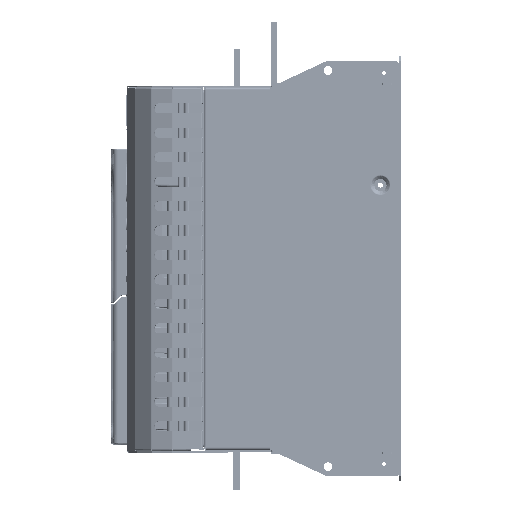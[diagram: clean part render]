
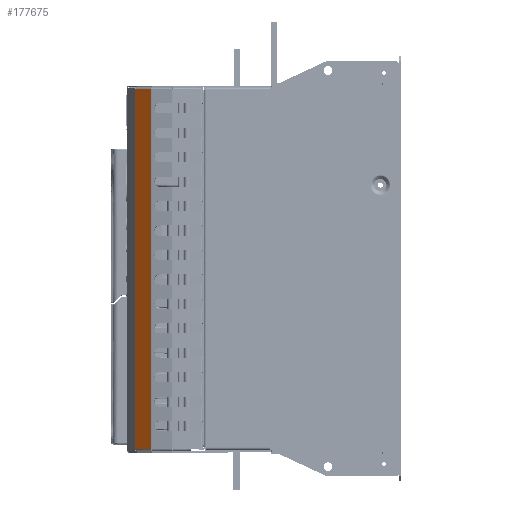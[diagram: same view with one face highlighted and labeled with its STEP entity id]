
A CAD part, left-side view. The second image highlights one B-rep face of the part: STEP entity #177675.
In plain terms, the highlighted planar face has unit normal (-0.744, 0.668, 0).
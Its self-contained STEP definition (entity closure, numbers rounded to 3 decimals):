
#31370 = EDGE_LOOP ( 'NONE', ( #558662, #558657, #558644, #558640 ) ) ;
#91413 = EDGE_CURVE ( 'NONE', #190513, #189671, #312677, .T. ) ;
#91515 = EDGE_CURVE ( 'NONE', #190513, #189179, #312845, .T. ) ;
#91536 = EDGE_CURVE ( 'NONE', #189671, #190154, #312942, .T. ) ;
#91540 = EDGE_CURVE ( 'NONE', #190154, #189179, #312903, .T. ) ;
#177675 = ADVANCED_FACE ( 'NONE', ( #419351 ), #530780, .T. ) ;
#189179 = VERTEX_POINT ( 'NONE', #539214 ) ;
#189671 = VERTEX_POINT ( 'NONE', #538386 ) ;
#190154 = VERTEX_POINT ( 'NONE', #536893 ) ;
#190513 = VERTEX_POINT ( 'NONE', #539007 ) ;
#209130 = DIRECTION ( 'NONE',  ( 0.668, 0.744, 0. ) ) ;
#209150 = DIRECTION ( 'NONE',  ( 0., 0., -1. ) ) ;
#209157 = CARTESIAN_POINT ( 'NONE',  ( -191.272, 245.377, 177.7 ) ) ;
#209210 = CARTESIAN_POINT ( 'NONE',  ( -177.198, 261.04, -176.9 ) ) ;
#209290 = DIRECTION ( 'NONE',  ( 0., 0., -1. ) ) ;
#209311 = CARTESIAN_POINT ( 'NONE',  ( -177.6, 260.593, 177.7 ) ) ;
#209957 = DIRECTION ( 'NONE',  ( -0.668, -0.744, 0. ) ) ;
#209961 = CARTESIAN_POINT ( 'NONE',  ( -177.198, 261.04, 175.9 ) ) ;
#312658 = VECTOR ( 'NONE', #209957, 1000. ) ;
#312677 = LINE ( 'NONE', #209961, #312658 ) ;
#312845 = LINE ( 'NONE', #209311, #312856 ) ;
#312856 = VECTOR ( 'NONE', #209290, 1000. ) ;
#312903 = LINE ( 'NONE', #209210, #312953 ) ;
#312942 = LINE ( 'NONE', #209157, #312949 ) ;
#312949 = VECTOR ( 'NONE', #209150, 1000. ) ;
#312953 = VECTOR ( 'NONE', #209130, 1000. ) ;
#355319 = AXIS2_PLACEMENT_3D ( 'NONE', #530782, #530732, #530722 ) ;
#419351 = FACE_OUTER_BOUND ( 'NONE', #31370, .T. ) ;
#530722 = DIRECTION ( 'NONE',  ( -0.668, -0.744, 0. ) ) ;
#530732 = DIRECTION ( 'NONE',  ( -0.744, 0.668, 0. ) ) ;
#530780 = PLANE ( 'NONE',  #355319 ) ;
#530782 = CARTESIAN_POINT ( 'NONE',  ( -177.256, 260.975, 177.7 ) ) ;
#536893 = CARTESIAN_POINT ( 'NONE',  ( -191.272, 245.377, -176.9 ) ) ;
#538386 = CARTESIAN_POINT ( 'NONE',  ( -191.272, 245.377, 175.9 ) ) ;
#539007 = CARTESIAN_POINT ( 'NONE',  ( -177.6, 260.593, 175.9 ) ) ;
#539214 = CARTESIAN_POINT ( 'NONE',  ( -177.6, 260.593, -176.9 ) ) ;
#558640 = ORIENTED_EDGE ( 'NONE', *, *, #91515, .T. ) ;
#558644 = ORIENTED_EDGE ( 'NONE', *, *, #91413, .F. ) ;
#558657 = ORIENTED_EDGE ( 'NONE', *, *, #91536, .F. ) ;
#558662 = ORIENTED_EDGE ( 'NONE', *, *, #91540, .F. ) ;
